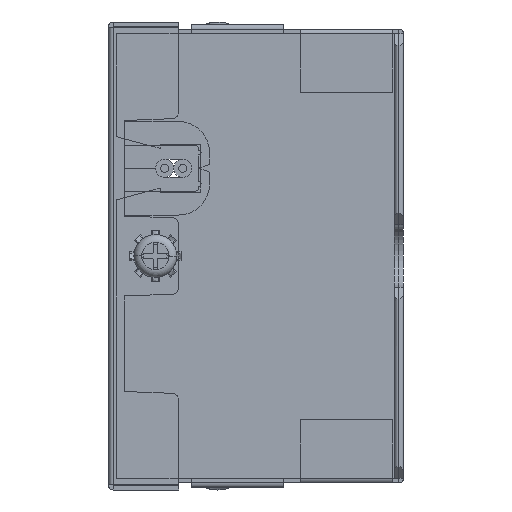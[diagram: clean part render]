
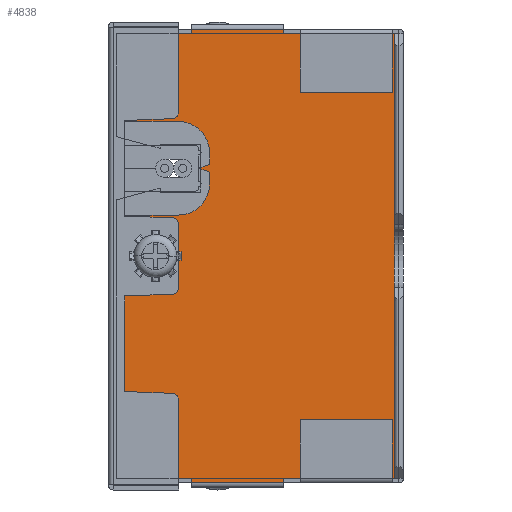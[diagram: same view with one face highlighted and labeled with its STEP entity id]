
A CAD part, left-side view. The second image highlights one B-rep face of the part: STEP entity #4838.
In plain terms, the highlighted planar face has unit normal (-1, 0, 0).
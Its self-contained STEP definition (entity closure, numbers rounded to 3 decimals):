
#19=DIRECTION('',(0.,0.259,0.966));
#20=VECTOR('',#19,5.797);
#21=CARTESIAN_POINT('',(-105.2,7.2,-36.2));
#22=LINE('',#21,#20);
#23=DIRECTION('',(0.,0.259,-0.966));
#24=VECTOR('',#23,5.797);
#25=CARTESIAN_POINT('',(-105.2,13.8,-30.6));
#26=LINE('',#25,#24);
#27=DIRECTION('',(0.,1.,0.));
#28=VECTOR('',#27,0.6);
#29=CARTESIAN_POINT('',(-105.2,28.5,-26.6));
#30=LINE('',#29,#28);
#31=DIRECTION('',(0.,-1.,0.));
#32=VECTOR('',#31,0.6);
#33=CARTESIAN_POINT('',(-105.2,29.1,-14.8));
#34=LINE('',#33,#32);
#35=DIRECTION('',(0.,-1.,0.));
#36=VECTOR('',#35,0.6);
#37=CARTESIAN_POINT('',(-105.2,-28.5,-14.8));
#38=LINE('',#37,#36);
#39=DIRECTION('',(0.,1.,0.));
#40=VECTOR('',#39,0.6);
#41=CARTESIAN_POINT('',(-105.2,-29.1,-26.6));
#42=LINE('',#41,#40);
#43=CARTESIAN_POINT('',(-105.2,0.,-31.2));
#44=DIRECTION('',(-1.,0.,0.));
#45=DIRECTION('',(0.,1.,0.));
#46=AXIS2_PLACEMENT_3D('',#43,#44,#45);
#48=CARTESIAN_POINT('',(-105.2,0.,-31.2));
#49=DIRECTION('',(-1.,0.,0.));
#50=DIRECTION('',(0.,0.,-1.));
#51=AXIS2_PLACEMENT_3D('',#48,#49,#50);
#53=CARTESIAN_POINT('',(-105.2,0.,-31.2));
#54=DIRECTION('',(-1.,0.,0.));
#55=DIRECTION('',(0.,-1.,0.));
#56=AXIS2_PLACEMENT_3D('',#53,#54,#55);
#58=CARTESIAN_POINT('',(-105.2,0.,-31.2));
#59=DIRECTION('',(-1.,0.,0.));
#60=DIRECTION('',(0.,0.,1.));
#61=AXIS2_PLACEMENT_3D('',#58,#59,#60);
#147=DIRECTION('',(0.,-1.,0.));
#148=VECTOR('',#147,35.7);
#149=CARTESIAN_POINT('',(-105.2,7.2,-36.2));
#150=LINE('',#149,#148);
#155=DIRECTION('',(0.,0.,1.));
#156=VECTOR('',#155,9.6);
#157=CARTESIAN_POINT('',(-105.2,-28.5,-36.2));
#158=LINE('',#157,#156);
#180=DIRECTION('',(0.,0.,1.));
#181=VECTOR('',#180,11.8);
#182=CARTESIAN_POINT('',(-105.2,-29.1,-26.6));
#183=LINE('',#182,#181);
#237=DIRECTION('',(0.,0.,1.));
#238=VECTOR('',#237,14.2);
#239=CARTESIAN_POINT('',(-105.2,-28.5,-14.8));
#240=LINE('',#239,#238);
#2709=DIRECTION('',(0.,1.,0.));
#2710=VECTOR('',#2709,57.);
#2711=CARTESIAN_POINT('',(-105.2,-28.5,-0.6));
#2712=LINE('',#2711,#2710);
#2784=DIRECTION('',(0.,0.,-1.));
#2785=VECTOR('',#2784,14.2);
#2786=CARTESIAN_POINT('',(-105.2,28.5,-0.6));
#2787=LINE('',#2786,#2785);
#2809=DIRECTION('',(0.,0.,-1.));
#2810=VECTOR('',#2809,11.8);
#2811=CARTESIAN_POINT('',(-105.2,29.1,-14.8));
#2812=LINE('',#2811,#2810);
#2866=DIRECTION('',(0.,0.,-1.));
#2867=VECTOR('',#2866,9.6);
#2868=CARTESIAN_POINT('',(-105.2,28.5,-26.6));
#2869=LINE('',#2868,#2867);
#2882=DIRECTION('',(0.,-1.,0.));
#2883=VECTOR('',#2882,13.2);
#2884=CARTESIAN_POINT('',(-105.2,28.5,-36.2));
#2885=LINE('',#2884,#2883);
#2890=DIRECTION('',(0.,1.,0.));
#2891=VECTOR('',#2890,0.5);
#2892=CARTESIAN_POINT('',(-105.2,13.8,-30.6));
#2893=LINE('',#2892,#2891);
#2898=DIRECTION('',(0.,0.,1.));
#2899=VECTOR('',#2898,5.15);
#2900=CARTESIAN_POINT('',(-105.2,14.3,-30.6));
#2901=LINE('',#2900,#2899);
#2906=DIRECTION('',(0.,-1.,0.));
#2907=VECTOR('',#2906,6.1);
#2908=CARTESIAN_POINT('',(-105.2,14.3,-25.45));
#2909=LINE('',#2908,#2907);
#2914=DIRECTION('',(0.,0.,-1.));
#2915=VECTOR('',#2914,5.15);
#2916=CARTESIAN_POINT('',(-105.2,8.2,-25.45));
#2917=LINE('',#2916,#2915);
#2922=DIRECTION('',(0.,1.,0.));
#2923=VECTOR('',#2922,0.5);
#2924=CARTESIAN_POINT('',(-105.2,8.2,-30.6));
#2925=LINE('',#2924,#2923);
#3775=CARTESIAN_POINT('',(-105.2,1.75,-31.2));
#3776=CARTESIAN_POINT('',(-105.2,0.,-32.95));
#3777=VERTEX_POINT('',#3775);
#3778=VERTEX_POINT('',#3776);
#3779=CARTESIAN_POINT('',(-105.2,-1.75,-31.2));
#3780=VERTEX_POINT('',#3779);
#3781=CARTESIAN_POINT('',(-105.2,7.2,-36.2));
#3782=CARTESIAN_POINT('',(-105.2,8.7,-30.6));
#3783=VERTEX_POINT('',#3781);
#3784=VERTEX_POINT('',#3782);
#3785=CARTESIAN_POINT('',(-105.2,8.2,-30.6));
#3786=VERTEX_POINT('',#3785);
#3787=CARTESIAN_POINT('',(-105.2,8.2,-25.45));
#3788=VERTEX_POINT('',#3787);
#3789=CARTESIAN_POINT('',(-105.2,14.3,-25.45));
#3790=VERTEX_POINT('',#3789);
#3791=CARTESIAN_POINT('',(-105.2,14.3,-30.6));
#3792=VERTEX_POINT('',#3791);
#3793=CARTESIAN_POINT('',(-105.2,13.8,-30.6));
#3794=VERTEX_POINT('',#3793);
#3795=CARTESIAN_POINT('',(-105.2,15.3,-36.2));
#3796=VERTEX_POINT('',#3795);
#3797=CARTESIAN_POINT('',(-105.2,28.5,-36.2));
#3798=VERTEX_POINT('',#3797);
#3799=CARTESIAN_POINT('',(-105.2,28.5,-26.6));
#3800=VERTEX_POINT('',#3799);
#3801=CARTESIAN_POINT('',(-105.2,29.1,-26.6));
#3802=VERTEX_POINT('',#3801);
#3803=CARTESIAN_POINT('',(-105.2,29.1,-14.8));
#3804=VERTEX_POINT('',#3803);
#3805=CARTESIAN_POINT('',(-105.2,28.5,-14.8));
#3806=VERTEX_POINT('',#3805);
#3807=CARTESIAN_POINT('',(-105.2,28.5,-0.6));
#3808=VERTEX_POINT('',#3807);
#3809=CARTESIAN_POINT('',(-105.2,-28.5,-0.6));
#3810=VERTEX_POINT('',#3809);
#3811=CARTESIAN_POINT('',(-105.2,-28.5,-14.8));
#3812=VERTEX_POINT('',#3811);
#3813=CARTESIAN_POINT('',(-105.2,-29.1,-14.8));
#3814=VERTEX_POINT('',#3813);
#3815=CARTESIAN_POINT('',(-105.2,-29.1,-26.6));
#3816=VERTEX_POINT('',#3815);
#3817=CARTESIAN_POINT('',(-105.2,-28.5,-26.6));
#3818=VERTEX_POINT('',#3817);
#3819=CARTESIAN_POINT('',(-105.2,-28.5,-36.2));
#3820=VERTEX_POINT('',#3819);
#3821=CARTESIAN_POINT('',(-105.2,0.,-29.45));
#3822=VERTEX_POINT('',#3821);
#4783=CARTESIAN_POINT('',(-105.2,-28.5,0.));
#4784=DIRECTION('',(1.,0.,0.));
#4785=DIRECTION('',(0.,-1.,0.));
#4786=AXIS2_PLACEMENT_3D('',#4783,#4784,#4785);
#4787=PLANE('',#4786);
#4789=ORIENTED_EDGE('',*,*,#4788,.T.);
#4791=ORIENTED_EDGE('',*,*,#4790,.F.);
#4793=ORIENTED_EDGE('',*,*,#4792,.F.);
#4795=ORIENTED_EDGE('',*,*,#4794,.F.);
#4797=ORIENTED_EDGE('',*,*,#4796,.F.);
#4799=ORIENTED_EDGE('',*,*,#4798,.F.);
#4801=ORIENTED_EDGE('',*,*,#4800,.T.);
#4803=ORIENTED_EDGE('',*,*,#4802,.F.);
#4805=ORIENTED_EDGE('',*,*,#4804,.F.);
#4807=ORIENTED_EDGE('',*,*,#4806,.T.);
#4809=ORIENTED_EDGE('',*,*,#4808,.F.);
#4811=ORIENTED_EDGE('',*,*,#4810,.T.);
#4813=ORIENTED_EDGE('',*,*,#4812,.F.);
#4815=ORIENTED_EDGE('',*,*,#4814,.F.);
#4817=ORIENTED_EDGE('',*,*,#4816,.F.);
#4819=ORIENTED_EDGE('',*,*,#4818,.T.);
#4821=ORIENTED_EDGE('',*,*,#4820,.F.);
#4823=ORIENTED_EDGE('',*,*,#4822,.T.);
#4825=ORIENTED_EDGE('',*,*,#4824,.F.);
#4827=ORIENTED_EDGE('',*,*,#4826,.F.);
#4828=EDGE_LOOP('',(#4789,#4791,#4793,#4795,#4797,#4799,#4801,#4803,#4805,#4807,
#4809,#4811,#4813,#4815,#4817,#4819,#4821,#4823,#4825,#4827));
#4829=FACE_OUTER_BOUND('',#4828,.F.);
#4830=ORIENTED_EDGE('',*,*,#4772,.T.);
#4831=ORIENTED_EDGE('',*,*,#4770,.T.);
#4833=ORIENTED_EDGE('',*,*,#4832,.T.);
#4835=ORIENTED_EDGE('',*,*,#4834,.T.);
#4836=EDGE_LOOP('',(#4830,#4831,#4833,#4835));
#4837=FACE_BOUND('',#4836,.F.);
#47=CIRCLE('',#46,1.75);
#52=CIRCLE('',#51,1.75);
#57=CIRCLE('',#56,1.75);
#62=CIRCLE('',#61,1.75);
#4770=EDGE_CURVE('',#3778,#3780,#52,.T.);
#4772=EDGE_CURVE('',#3777,#3778,#47,.T.);
#4788=EDGE_CURVE('',#3783,#3784,#22,.T.);
#4790=EDGE_CURVE('',#3786,#3784,#2925,.T.);
#4792=EDGE_CURVE('',#3788,#3786,#2917,.T.);
#4794=EDGE_CURVE('',#3790,#3788,#2909,.T.);
#4796=EDGE_CURVE('',#3792,#3790,#2901,.T.);
#4798=EDGE_CURVE('',#3794,#3792,#2893,.T.);
#4800=EDGE_CURVE('',#3794,#3796,#26,.T.);
#4802=EDGE_CURVE('',#3798,#3796,#2885,.T.);
#4804=EDGE_CURVE('',#3800,#3798,#2869,.T.);
#4806=EDGE_CURVE('',#3800,#3802,#30,.T.);
#4808=EDGE_CURVE('',#3804,#3802,#2812,.T.);
#4810=EDGE_CURVE('',#3804,#3806,#34,.T.);
#4812=EDGE_CURVE('',#3808,#3806,#2787,.T.);
#4814=EDGE_CURVE('',#3810,#3808,#2712,.T.);
#4816=EDGE_CURVE('',#3812,#3810,#240,.T.);
#4818=EDGE_CURVE('',#3812,#3814,#38,.T.);
#4820=EDGE_CURVE('',#3816,#3814,#183,.T.);
#4822=EDGE_CURVE('',#3816,#3818,#42,.T.);
#4824=EDGE_CURVE('',#3820,#3818,#158,.T.);
#4826=EDGE_CURVE('',#3783,#3820,#150,.T.);
#4832=EDGE_CURVE('',#3780,#3822,#57,.T.);
#4834=EDGE_CURVE('',#3822,#3777,#62,.T.);
#4838=ADVANCED_FACE('',(#4829,#4837),#4787,.F.);
